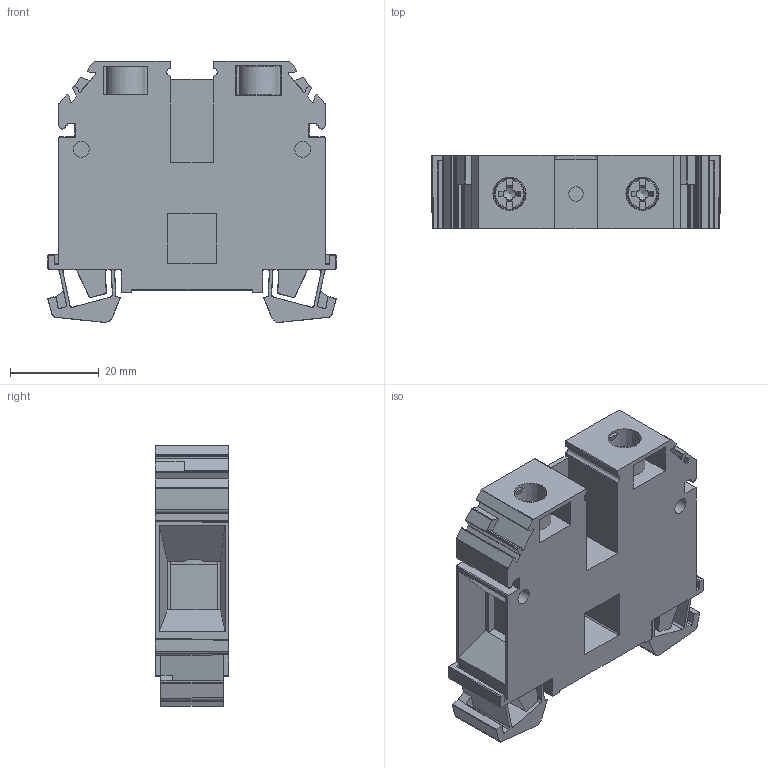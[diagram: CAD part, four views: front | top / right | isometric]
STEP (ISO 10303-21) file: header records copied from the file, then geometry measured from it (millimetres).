
FILE_DESCRIPTION(/* description */ ('Unknown'),/* implementation_level */ '2;1');
FILE_NAME(/* name */ 'RSA 35A',/* time_stamp */ '2021-03-10T12:44:02+01:00',/* author */ ('Unknown'),/* organization */ ('Unknown'),/* preprocessor_version */ 'ST-DEVELOPER v16.7',/* originating_system */ 'Solid Edge',/* authorisation */ 'Unknown');
FILE_SCHEMA (('AUTOMOTIVE_DESIGN {1 0 10303 214 3 1 1}'));
Length unit declared in the file: millimetre
Products named in the file (1): RSA 35A
Bounding box: 65.05 x 16.5 x 58.87 mm (x, y, z)
Volume: 39125.2 mm3; surface area: 16388.8 mm2
Topology: 1 solids, 1 shells, 416 faces, 1126 edges, 734 vertices
Faces by surface type: plane 281, cylinder 121, cone 8, torus 6
Full cylindrical faces by diameter (mm): 3.242 x1, 3.6 x2, 6 x4, 6.2 x2
Entity records: 15773 total; most frequent: CARTESIAN_POINT 2280, DIRECTION 2207, ORIENTED_EDGE 2186, EDGE_CURVE 1093, LINE 781, VECTOR 781, VERTEX_POINT 722, AXIS2_PLACEMENT_3D 713
